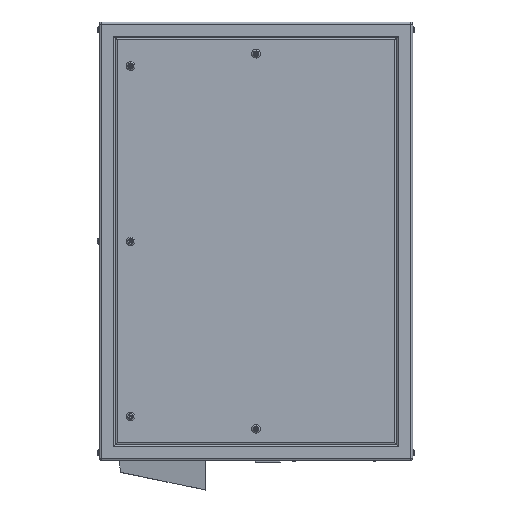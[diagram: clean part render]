
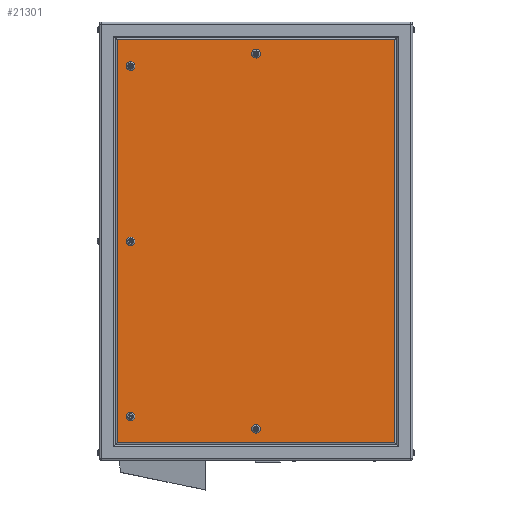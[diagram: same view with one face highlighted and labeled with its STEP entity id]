
A CAD part, left-side view. The second image highlights one B-rep face of the part: STEP entity #21301.
In plain terms, the highlighted planar face has unit normal (-1, 0, 0).
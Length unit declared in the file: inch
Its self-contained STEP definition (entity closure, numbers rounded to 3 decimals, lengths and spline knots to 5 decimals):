
#68 = AXIS2_PLACEMENT_3D ( 'NONE', #10240, #19660, #17444 ) ;
#452 = ORIENTED_EDGE ( 'NONE', *, *, #11600, .T. ) ;
#477 = CARTESIAN_POINT ( 'NONE',  ( -12., -17.74, -25.74 ) ) ;
#480 = VECTOR ( 'NONE', #14909, 39.37008 ) ;
#489 = DIRECTION ( 'NONE',  ( 0., -1., 0. ) ) ;
#597 = ORIENTED_EDGE ( 'NONE', *, *, #2118, .T. ) ;
#631 = VERTEX_POINT ( 'NONE', #1651 ) ;
#635 = EDGE_LOOP ( 'NONE', ( #15164, #687 ) ) ;
#687 = ORIENTED_EDGE ( 'NONE', *, *, #4662, .T. ) ;
#1094 = CARTESIAN_POINT ( 'NONE',  ( -12., 0., 23.4 ) ) ;
#1147 = CARTESIAN_POINT ( 'NONE',  ( -12., 16., -22.925 ) ) ;
#1418 = DIRECTION ( 'NONE',  ( 1., 0., 0. ) ) ;
#1560 = FACE_OUTER_BOUND ( 'NONE', #20609, .T. ) ;
#1577 = EDGE_CURVE ( 'NONE', #3977, #1746, #16791, .T. ) ;
#1651 = CARTESIAN_POINT ( 'NONE',  ( -12., 16., 0.55 ) ) ;
#1746 = VERTEX_POINT ( 'NONE', #16997 ) ;
#1796 = CARTESIAN_POINT ( 'NONE',  ( -12., 20., -28. ) ) ;
#1904 = PLANE ( 'NONE',  #3479 ) ;
#2000 = DIRECTION ( 'NONE',  ( 1., 0., 0. ) ) ;
#2065 = CARTESIAN_POINT ( 'NONE',  ( -12., -17.74, 25.74 ) ) ;
#2118 = EDGE_CURVE ( 'NONE', #1746, #3977, #13781, .T. ) ;
#2158 = DIRECTION ( 'NONE',  ( 0., 0., -1. ) ) ;
#2507 = CARTESIAN_POINT ( 'NONE',  ( -12., 16., 0. ) ) ;
#2673 = DIRECTION ( 'NONE',  ( 0., 0., 1. ) ) ;
#2780 = ORIENTED_EDGE ( 'NONE', *, *, #20117, .T. ) ;
#2932 = CARTESIAN_POINT ( 'NONE',  ( -12., 17.74, -28. ) ) ;
#3270 = CARTESIAN_POINT ( 'NONE',  ( -12., 20., 25.74 ) ) ;
#3306 = VERTEX_POINT ( 'NONE', #477 ) ;
#3479 = AXIS2_PLACEMENT_3D ( 'NONE', #1796, #21416, #7344 ) ;
#3574 = AXIS2_PLACEMENT_3D ( 'NONE', #12573, #4031, #2158 ) ;
#3602 = EDGE_CURVE ( 'NONE', #9465, #7610, #13148, .T. ) ;
#3622 = LINE ( 'NONE', #3270, #4523 ) ;
#3623 = EDGE_LOOP ( 'NONE', ( #452, #16859 ) ) ;
#3642 = CARTESIAN_POINT ( 'NONE',  ( -12., 17.74, -25.74 ) ) ;
#3757 = VERTEX_POINT ( 'NONE', #3642 ) ;
#3977 = VERTEX_POINT ( 'NONE', #7433 ) ;
#4031 = DIRECTION ( 'NONE',  ( 1., 0., 0. ) ) ;
#4422 = AXIS2_PLACEMENT_3D ( 'NONE', #17422, #19411, #20968 ) ;
#4523 = VECTOR ( 'NONE', #17707, 39.37008 ) ;
#4662 = EDGE_CURVE ( 'NONE', #20669, #12084, #16972, .T. ) ;
#4724 = DIRECTION ( 'NONE',  ( 0., 0., -1. ) ) ;
#4963 = EDGE_CURVE ( 'NONE', #18305, #10219, #3622, .T. ) ;
#5010 = CIRCLE ( 'NONE', #19367, 0.55 ) ;
#5186 = DIRECTION ( 'NONE',  ( 1., 0., 0. ) ) ;
#5416 = ORIENTED_EDGE ( 'NONE', *, *, #3602, .T. ) ;
#5827 = EDGE_CURVE ( 'NONE', #7610, #9465, #18138, .T. ) ;
#6185 = DIRECTION ( 'NONE',  ( 1., 0., 0. ) ) ;
#6291 = VERTEX_POINT ( 'NONE', #10229 ) ;
#6449 = ORIENTED_EDGE ( 'NONE', *, *, #20679, .T. ) ;
#6607 = EDGE_CURVE ( 'NONE', #10219, #3757, #20799, .T. ) ;
#7344 = DIRECTION ( 'NONE',  ( 0., 0., -1. ) ) ;
#7380 = CARTESIAN_POINT ( 'NONE',  ( -12., 20., -25.74 ) ) ;
#7433 = CARTESIAN_POINT ( 'NONE',  ( -12., 16., 21.825 ) ) ;
#7500 = ORIENTED_EDGE ( 'NONE', *, *, #1577, .T. ) ;
#7567 = CIRCLE ( 'NONE', #11364, 0.55 ) ;
#7610 = VERTEX_POINT ( 'NONE', #10833 ) ;
#7665 = CIRCLE ( 'NONE', #20872, 0.55 ) ;
#7705 = DIRECTION ( 'NONE',  ( 1., 0., 0. ) ) ;
#7708 = LINE ( 'NONE', #11508, #480 ) ;
#9465 = VERTEX_POINT ( 'NONE', #22302 ) ;
#9510 = VECTOR ( 'NONE', #489, 39.37008 ) ;
#10064 = CARTESIAN_POINT ( 'NONE',  ( -12., 16., -21.825 ) ) ;
#10078 = VERTEX_POINT ( 'NONE', #1147 ) ;
#10219 = VERTEX_POINT ( 'NONE', #12399 ) ;
#10229 = CARTESIAN_POINT ( 'NONE',  ( -12., 16., -0.55 ) ) ;
#10240 = CARTESIAN_POINT ( 'NONE',  ( -12., 16., -22.375 ) ) ;
#10833 = CARTESIAN_POINT ( 'NONE',  ( -12., 0., -24.5 ) ) ;
#10900 = FACE_BOUND ( 'NONE', #20820, .T. ) ;
#11059 = CARTESIAN_POINT ( 'NONE',  ( -12., 0., 24.5 ) ) ;
#11364 = AXIS2_PLACEMENT_3D ( 'NONE', #15735, #1418, #21051 ) ;
#11508 = CARTESIAN_POINT ( 'NONE',  ( -12., -17.74, -28. ) ) ;
#11600 = EDGE_CURVE ( 'NONE', #10078, #16511, #7567, .T. ) ;
#12084 = VERTEX_POINT ( 'NONE', #1094 ) ;
#12191 = CARTESIAN_POINT ( 'NONE',  ( -12., 16., 22.375 ) ) ;
#12399 = CARTESIAN_POINT ( 'NONE',  ( -12., 17.74, 25.74 ) ) ;
#12573 = CARTESIAN_POINT ( 'NONE',  ( -12., 16., 22.375 ) ) ;
#12808 = LINE ( 'NONE', #7380, #9510 ) ;
#13148 = CIRCLE ( 'NONE', #19166, 0.55 ) ;
#13194 = ORIENTED_EDGE ( 'NONE', *, *, #5827, .T. ) ;
#13293 = EDGE_CURVE ( 'NONE', #631, #6291, #7665, .T. ) ;
#13619 = DIRECTION ( 'NONE',  ( 0., 0., -1. ) ) ;
#13781 = CIRCLE ( 'NONE', #3574, 0.55 ) ;
#13971 = AXIS2_PLACEMENT_3D ( 'NONE', #20422, #14750, #2673 ) ;
#14381 = EDGE_LOOP ( 'NONE', ( #7500, #597 ) ) ;
#14750 = DIRECTION ( 'NONE',  ( 1., 0., 0. ) ) ;
#14907 = DIRECTION ( 'NONE',  ( 0., 0., 1. ) ) ;
#14909 = DIRECTION ( 'NONE',  ( 0., 0., 1. ) ) ;
#15164 = ORIENTED_EDGE ( 'NONE', *, *, #21837, .T. ) ;
#15735 = CARTESIAN_POINT ( 'NONE',  ( -12., 16., -22.375 ) ) ;
#16102 = FACE_BOUND ( 'NONE', #3623, .T. ) ;
#16511 = VERTEX_POINT ( 'NONE', #10064 ) ;
#16791 = CIRCLE ( 'NONE', #19412, 0.55 ) ;
#16859 = ORIENTED_EDGE ( 'NONE', *, *, #21548, .T. ) ;
#16972 = CIRCLE ( 'NONE', #19990, 0.55 ) ;
#16997 = CARTESIAN_POINT ( 'NONE',  ( -12., 16., 22.925 ) ) ;
#17180 = ORIENTED_EDGE ( 'NONE', *, *, #22026, .T. ) ;
#17394 = ORIENTED_EDGE ( 'NONE', *, *, #13293, .T. ) ;
#17422 = CARTESIAN_POINT ( 'NONE',  ( -12., 16., 0. ) ) ;
#17444 = DIRECTION ( 'NONE',  ( 0., 0., -1. ) ) ;
#17619 = ORIENTED_EDGE ( 'NONE', *, *, #4963, .T. ) ;
#17707 = DIRECTION ( 'NONE',  ( 0., 1., 0. ) ) ;
#17966 = DIRECTION ( 'NONE',  ( 0., 0., -1. ) ) ;
#17986 = FACE_BOUND ( 'NONE', #635, .T. ) ;
#18018 = CIRCLE ( 'NONE', #4422, 0.55 ) ;
#18102 = FACE_BOUND ( 'NONE', #22000, .T. ) ;
#18138 = CIRCLE ( 'NONE', #13971, 0.55 ) ;
#18173 = VECTOR ( 'NONE', #19234, 39.37008 ) ;
#18305 = VERTEX_POINT ( 'NONE', #2065 ) ;
#18457 = CARTESIAN_POINT ( 'NONE',  ( -12., 0., -23.95 ) ) ;
#19142 = DIRECTION ( 'NONE',  ( 1., 0., 0. ) ) ;
#19166 = AXIS2_PLACEMENT_3D ( 'NONE', #18457, #7705, #14907 ) ;
#19234 = DIRECTION ( 'NONE',  ( 0., 0., -1. ) ) ;
#19367 = AXIS2_PLACEMENT_3D ( 'NONE', #20727, #6185, #13619 ) ;
#19374 = DIRECTION ( 'NONE',  ( 0., 0., -1. ) ) ;
#19385 = ORIENTED_EDGE ( 'NONE', *, *, #6607, .T. ) ;
#19411 = DIRECTION ( 'NONE',  ( 1., 0., 0. ) ) ;
#19412 = AXIS2_PLACEMENT_3D ( 'NONE', #12191, #5186, #19374 ) ;
#19660 = DIRECTION ( 'NONE',  ( 1., 0., 0. ) ) ;
#19980 = FACE_BOUND ( 'NONE', #14381, .T. ) ;
#19990 = AXIS2_PLACEMENT_3D ( 'NONE', #23299, #2000, #17966 ) ;
#20117 = EDGE_CURVE ( 'NONE', #6291, #631, #18018, .T. ) ;
#20422 = CARTESIAN_POINT ( 'NONE',  ( -12., 0., -23.95 ) ) ;
#20494 = CIRCLE ( 'NONE', #68, 0.55 ) ;
#20609 = EDGE_LOOP ( 'NONE', ( #6449, #17180, #17619, #19385 ) ) ;
#20669 = VERTEX_POINT ( 'NONE', #11059 ) ;
#20679 = EDGE_CURVE ( 'NONE', #3757, #3306, #12808, .T. ) ;
#20727 = CARTESIAN_POINT ( 'NONE',  ( -12., 0., 23.95 ) ) ;
#20799 = LINE ( 'NONE', #2932, #18173 ) ;
#20820 = EDGE_LOOP ( 'NONE', ( #13194, #5416 ) ) ;
#20872 = AXIS2_PLACEMENT_3D ( 'NONE', #2507, #19142, #4724 ) ;
#20968 = DIRECTION ( 'NONE',  ( 0., 0., -1. ) ) ;
#21051 = DIRECTION ( 'NONE',  ( 0., 0., -1. ) ) ;
#21301 = ADVANCED_FACE ( 'NONE', ( #10900, #17986, #16102, #18102, #19980, #1560 ), #1904, .F. ) ;
#21416 = DIRECTION ( 'NONE',  ( 1., 0., 0. ) ) ;
#21548 = EDGE_CURVE ( 'NONE', #16511, #10078, #20494, .T. ) ;
#21837 = EDGE_CURVE ( 'NONE', #12084, #20669, #5010, .T. ) ;
#22000 = EDGE_LOOP ( 'NONE', ( #2780, #17394 ) ) ;
#22026 = EDGE_CURVE ( 'NONE', #3306, #18305, #7708, .T. ) ;
#22302 = CARTESIAN_POINT ( 'NONE',  ( -12., 0., -23.4 ) ) ;
#23299 = CARTESIAN_POINT ( 'NONE',  ( -12., 0., 23.95 ) ) ;
